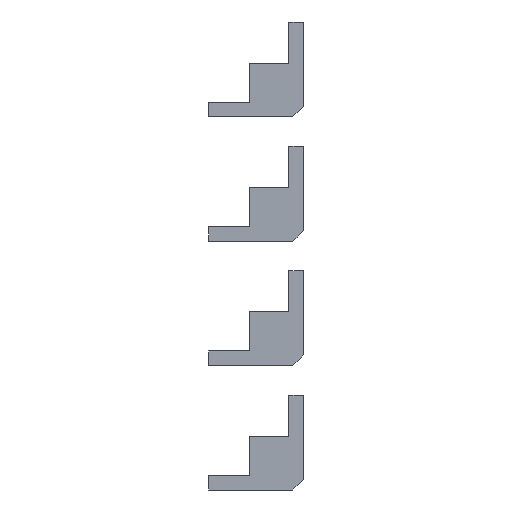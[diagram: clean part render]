
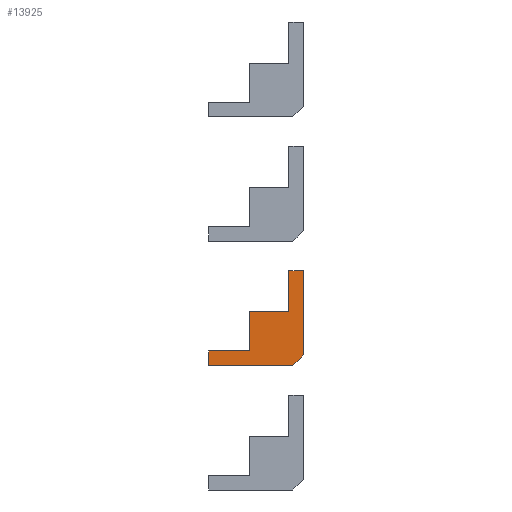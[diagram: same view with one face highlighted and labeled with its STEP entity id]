
A CAD part, front view. The second image highlights one B-rep face of the part: STEP entity #13925.
In plain terms, the highlighted planar face has unit normal (0, -1, 0).
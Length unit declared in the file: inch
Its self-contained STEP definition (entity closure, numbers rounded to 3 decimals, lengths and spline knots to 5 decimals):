
#1626 = LINE ( 'NONE', #45728, #64976 ) ;
#2535 = CARTESIAN_POINT ( 'NONE',  ( 0.3937, -37.32283, 2.08661 ) ) ;
#3224 = CARTESIAN_POINT ( 'NONE',  ( 0.5315, -37.32283, 2.8937 ) ) ;
#3917 = VERTEX_POINT ( 'NONE', #27566 ) ;
#4178 = VECTOR ( 'NONE', #135963, 39.37008 ) ;
#5157 = VERTEX_POINT ( 'NONE', #29443 ) ;
#5246 = EDGE_CURVE ( 'NONE', #5157, #3917, #98121, .T. ) ;
#10089 = PLANE ( 'NONE',  #78432 ) ;
#11239 = DIRECTION ( 'NONE',  ( 0., 0., 1. ) ) ;
#13364 = DIRECTION ( 'NONE',  ( 1., 0., 0. ) ) ;
#13465 = ORIENTED_EDGE ( 'NONE', *, *, #72387, .F. ) ;
#13925 = ADVANCED_FACE ( 'NONE', ( #34674 ), #10089, .F. ) ;
#21448 = DIRECTION ( 'NONE',  ( 0., 0., -1. ) ) ;
#22102 = ORIENTED_EDGE ( 'NONE', *, *, #125701, .F. ) ;
#23347 = EDGE_CURVE ( 'NONE', #62276, #135614, #56066, .T. ) ;
#24223 = LINE ( 'NONE', #3224, #78860 ) ;
#27566 = CARTESIAN_POINT ( 'NONE',  ( 0.68898, -37.32283, 2.02717 ) ) ;
#27955 = LINE ( 'NONE', #138578, #28207 ) ;
#28207 = VECTOR ( 'NONE', #72054, 39.37008 ) ;
#29443 = CARTESIAN_POINT ( 'NONE',  ( 0.68898, -37.32283, 3.72047 ) ) ;
#30520 = ORIENTED_EDGE ( 'NONE', *, *, #34070, .F. ) ;
#32159 = EDGE_CURVE ( 'NONE', #135614, #5157, #48187, .T. ) ;
#33706 = EDGE_CURVE ( 'NONE', #134329, #62276, #24223, .T. ) ;
#33731 = CARTESIAN_POINT ( 'NONE',  ( 0.68898, -37.32283, 3.72047 ) ) ;
#34070 = EDGE_CURVE ( 'NONE', #59477, #81442, #1626, .T. ) ;
#34674 = FACE_OUTER_BOUND ( 'NONE', #83681, .T. ) ;
#36033 = ORIENTED_EDGE ( 'NONE', *, *, #81350, .F. ) ;
#37637 = EDGE_CURVE ( 'NONE', #113629, #59477, #129601, .T. ) ;
#39914 = CARTESIAN_POINT ( 'NONE',  ( 0.47283, -37.32283, 1.81102 ) ) ;
#40035 = CARTESIAN_POINT ( 'NONE',  ( -1.22047, -37.32283, 2.1063 ) ) ;
#40657 = CARTESIAN_POINT ( 'NONE',  ( -1.22047, -37.32283, 2.1063 ) ) ;
#45571 = LINE ( 'NONE', #56438, #4178 ) ;
#45728 = CARTESIAN_POINT ( 'NONE',  ( 0.5315, -37.32283, 2.1063 ) ) ;
#46087 = VERTEX_POINT ( 'NONE', #39914 ) ;
#47287 = ORIENTED_EDGE ( 'NONE', *, *, #32159, .F. ) ;
#48187 = LINE ( 'NONE', #61858, #143027 ) ;
#48558 = CARTESIAN_POINT ( 'NONE',  ( 0.68898, -37.32283, 2.02717 ) ) ;
#56066 = LINE ( 'NONE', #2535, #116870 ) ;
#56438 = CARTESIAN_POINT ( 'NONE',  ( -0.3937, -37.32283, 2.08661 ) ) ;
#57444 = ORIENTED_EDGE ( 'NONE', *, *, #23347, .F. ) ;
#57783 = CARTESIAN_POINT ( 'NONE',  ( -0.3937, -37.32283, 2.8937 ) ) ;
#59477 = VERTEX_POINT ( 'NONE', #40035 ) ;
#61858 = CARTESIAN_POINT ( 'NONE',  ( 0.5315, -37.32283, 3.72047 ) ) ;
#62276 = VERTEX_POINT ( 'NONE', #72907 ) ;
#64976 = VECTOR ( 'NONE', #123846, 39.37008 ) ;
#65609 = CARTESIAN_POINT ( 'NONE',  ( -1.22047, -37.32283, 1.81102 ) ) ;
#67203 = CARTESIAN_POINT ( 'NONE',  ( 0.5315, -37.32283, 2.08661 ) ) ;
#69299 = ORIENTED_EDGE ( 'NONE', *, *, #5246, .F. ) ;
#72054 = DIRECTION ( 'NONE',  ( -1., 0., 0. ) ) ;
#72387 = EDGE_CURVE ( 'NONE', #46087, #113629, #27955, .T. ) ;
#72907 = CARTESIAN_POINT ( 'NONE',  ( 0.3937, -37.32283, 2.8937 ) ) ;
#78432 = AXIS2_PLACEMENT_3D ( 'NONE', #67203, #88908, #131586 ) ;
#78860 = VECTOR ( 'NONE', #13364, 39.37008 ) ;
#81350 = EDGE_CURVE ( 'NONE', #3917, #46087, #137481, .T. ) ;
#81442 = VERTEX_POINT ( 'NONE', #85355 ) ;
#83681 = EDGE_LOOP ( 'NONE', ( #69299, #47287, #57444, #121508, #22102, #30520, #114382, #13465, #36033 ) ) ;
#85355 = CARTESIAN_POINT ( 'NONE',  ( -0.3937, -37.32283, 2.1063 ) ) ;
#88908 = DIRECTION ( 'NONE',  ( 0., 1., 0. ) ) ;
#91077 = CARTESIAN_POINT ( 'NONE',  ( 0.3937, -37.32283, 3.72047 ) ) ;
#92606 = VECTOR ( 'NONE', #141180, 39.37008 ) ;
#94135 = VECTOR ( 'NONE', #21448, 39.37008 ) ;
#98121 = LINE ( 'NONE', #33731, #94135 ) ;
#113629 = VERTEX_POINT ( 'NONE', #65609 ) ;
#114382 = ORIENTED_EDGE ( 'NONE', *, *, #37637, .F. ) ;
#116137 = DIRECTION ( 'NONE',  ( 1., 0., 0. ) ) ;
#116870 = VECTOR ( 'NONE', #11239, 39.37008 ) ;
#121508 = ORIENTED_EDGE ( 'NONE', *, *, #33706, .F. ) ;
#123846 = DIRECTION ( 'NONE',  ( 1., 0., 0. ) ) ;
#125701 = EDGE_CURVE ( 'NONE', #81442, #134329, #45571, .T. ) ;
#129601 = LINE ( 'NONE', #40657, #92606 ) ;
#131586 = DIRECTION ( 'NONE',  ( 1., 0., 0. ) ) ;
#133847 = VECTOR ( 'NONE', #138193, 39.37008 ) ;
#134329 = VERTEX_POINT ( 'NONE', #57783 ) ;
#135614 = VERTEX_POINT ( 'NONE', #91077 ) ;
#135963 = DIRECTION ( 'NONE',  ( 0., 0., 1. ) ) ;
#137481 = LINE ( 'NONE', #48558, #133847 ) ;
#138193 = DIRECTION ( 'NONE',  ( -0.707, 0., -0.707 ) ) ;
#138578 = CARTESIAN_POINT ( 'NONE',  ( -1.22047, -37.32283, 1.81102 ) ) ;
#141180 = DIRECTION ( 'NONE',  ( 0., 0., 1. ) ) ;
#143027 = VECTOR ( 'NONE', #116137, 39.37008 ) ;
